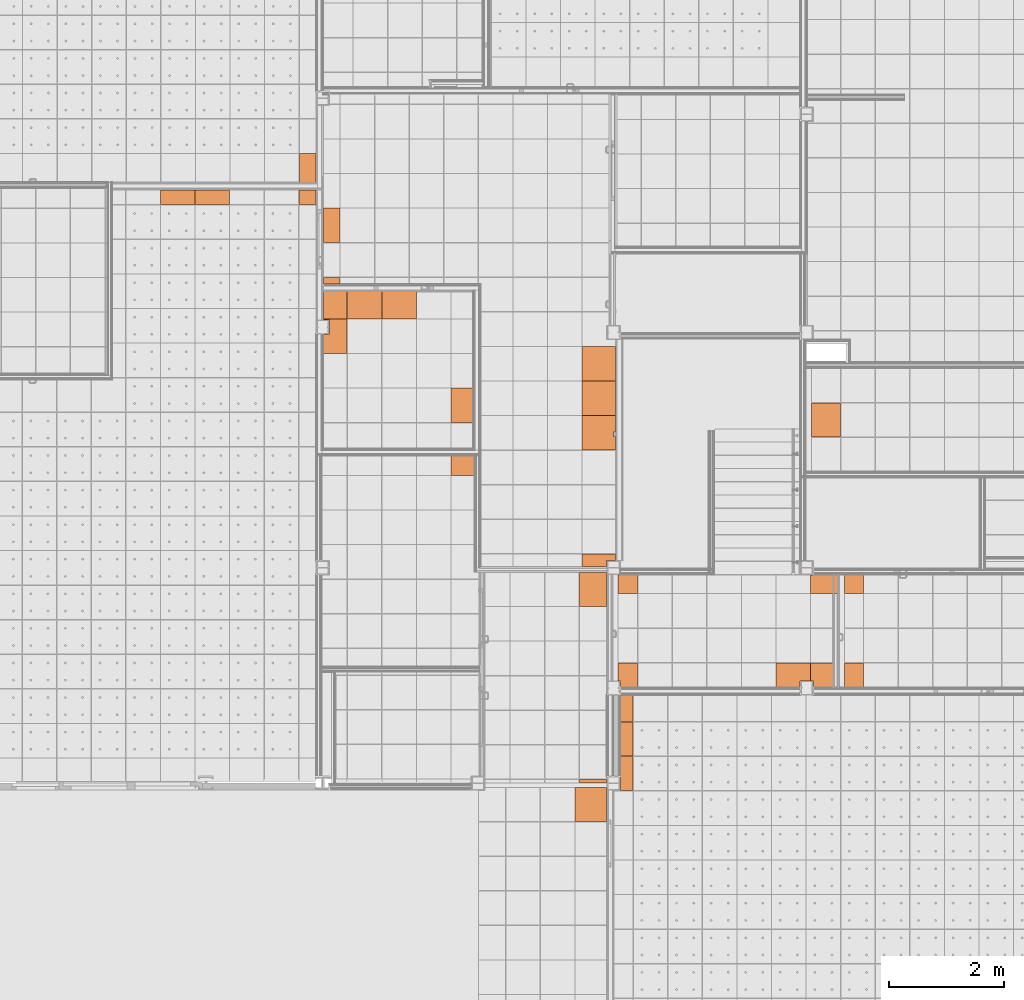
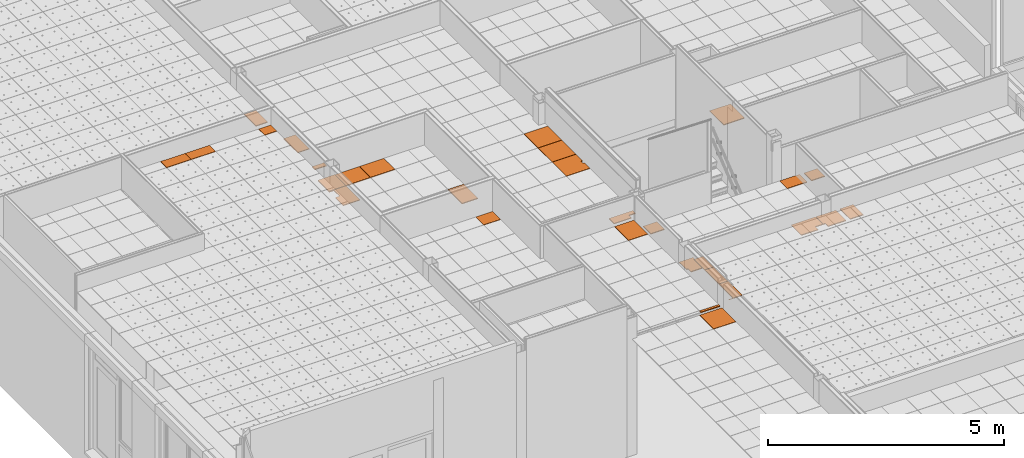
# One storey, part 333 of 338: 30 proxies, 11 elements without a shape of their own.
"""IFC2X3 building model written with IfcOpenShell, lengths in millimetres."""

import ifcopenshell
import ifcopenshell.guid

model = None  # the IFC model being written
_history = None  # IfcOwnerHistory: only IFC2X3 demands one
_inside = {}  # id of a spatial element -> (the spatial element, [elements in it])
_under = {}  # id of a project, library or spatial element -> (it, [spatial elements below it])
_declared = {}  # id of a project -> (the project, [libraries it declares])
_typed = {}  # id of a type object -> (the type object, [elements of that type])
_made_of = {}  # id of a material, layer set ... -> (it, [elements and type objects made of it])


def new_model(schema):
    """Start an empty IFC model of exactly this schema.

    Asked for "IFC4X3", IfcOpenShell would pick the latest addendum, in which some entities
    have other attributes; the version numbers below select the first issue.
    IFC2X3 requires an IfcOwnerHistory on every rooted entity: one is made here for all.
    """
    global model, _history
    if schema == "IFC4X3":
        model = ifcopenshell.file(schema_version=(4, 3, 0, 0))
    else:
        model = ifcopenshell.file(schema=schema)
    _inside.clear()
    _under.clear()
    _declared.clear()
    _typed.clear()
    _made_of.clear()
    _history = None
    if model.schema == "IFC2X3":
        org = make("IfcOrganization", Name="unknown")
        user = make(
            "IfcPersonAndOrganization",
            ThePerson=make("IfcPerson", FamilyName="unknown"),
            TheOrganization=org,
        )
        app = make(
            "IfcApplication",
            ApplicationDeveloper=org,
            Version="unknown",
            ApplicationFullName="unknown",
            ApplicationIdentifier="unknown",
        )
        _history = make(
            "IfcOwnerHistory",
            OwningUser=user,
            OwningApplication=app,
            ChangeAction="ADDED",
            CreationDate=0,
        )
    return model


def make(cls, **values):
    """One entity of the class cls with the attributes given. An attribute that is None is left unset."""
    return model.create_entity(
        cls, **{name: value for name, value in values.items() if value is not None}
    )


def entity(cls, *values):
    """Any entity or typed value of the class cls, its attributes in the order of the schema. None: left unset."""
    e = model.create_entity(cls)
    for i, value in enumerate(values):
        if value is not None:
            e[i] = value
    return e


def rooted(cls, **values):
    """An entity with a GlobalId (a new one), such as an element, a storey or a relation."""
    return make(cls, GlobalId=ifcopenshell.guid.new(), OwnerHistory=_history, **values)


def si_unit(unit_type, name, prefix=None):
    """IfcSIUnit, for example si_unit("LENGTHUNIT", "METRE", prefix="MILLI")."""
    return make("IfcSIUnit", UnitType=unit_type, Prefix=prefix, Name=name)


def converted_unit(unit_type, name, factor, base, dimensions=None, offset=None):
    """IfcConversionBasedUnit, such as the inch: factor (a typed value) times the base unit."""
    return make(
        "IfcConversionBasedUnit"
        if offset is None
        else "IfcConversionBasedUnitWithOffset",
        ConversionOffset=offset,
        Dimensions=None
        if dimensions is None
        else entity("IfcDimensionalExponents", *dimensions),
        UnitType=unit_type,
        Name=name,
        ConversionFactor=make(
            "IfcMeasureWithUnit", ValueComponent=factor, UnitComponent=base
        ),
    )


def derived_unit(unit_type, elements):
    """IfcDerivedUnit: a product of units, each with its exponent."""
    return make(
        "IfcDerivedUnit",
        Elements=[
            make("IfcDerivedUnitElement", Unit=unit, Exponent=power)
            for unit, power in elements
        ],
        UnitType=unit_type,
    )


def money_unit(currency):
    """IfcMonetaryUnit."""
    return make("IfcMonetaryUnit", Currency=currency)


def assignment(units):
    """IfcUnitAssignment: the units of a project."""
    return None if units is None else make("IfcUnitAssignment", Units=units)


def point(xyz):
    """IfcCartesianPoint."""
    return None if xyz is None else make("IfcCartesianPoint", Coordinates=xyz)


def direction(xyz):
    """IfcDirection."""
    return None if xyz is None else make("IfcDirection", DirectionRatios=xyz)


def frame(location, z_axis=None, x_axis=None):
    """IfcAxis2Placement3D, a coordinate frame: its origin and axes. An axis left out is left unset."""
    return make(
        "IfcAxis2Placement3D",
        Location=point(location),
        Axis=direction(z_axis),
        RefDirection=direction(x_axis),
    )


def origin_with_axes():
    """The frame at (0, 0, 0) with the z axis (0, 0, 1) and the x axis (1, 0, 0) written out."""
    return frame((0.0, 0.0, 0.0), z_axis=(0.0, 0.0, 1.0), x_axis=(1.0, 0.0, 0.0))


def place(relative_to, where):
    """IfcLocalPlacement: puts the frame where relative to a parent placement (None: the world)."""
    return make(
        "IfcLocalPlacement", PlacementRelTo=relative_to, RelativePlacement=where
    )


def context(
    kind, dimensions, precision=None, world=None, true_north=None, identifier=None
):
    """IfcGeometricRepresentationContext, for example the 3D "Model" context."""
    return make(
        "IfcGeometricRepresentationContext",
        ContextIdentifier=identifier,
        ContextType=kind,
        CoordinateSpaceDimension=dimensions,
        Precision=precision,
        WorldCoordinateSystem=world,
        TrueNorth=true_north,
    )


def subcontext(parent, identifier, kind, view, scale=None):
    """IfcGeometricRepresentationSubContext, for example "Body" below "Model"."""
    return make(
        "IfcGeometricRepresentationSubContext",
        ContextIdentifier=identifier,
        ContextType=kind,
        ParentContext=parent,
        TargetScale=scale,
        TargetView=view,
    )


def project(units=None, contexts=None):
    """IfcProject with its units and contexts."""
    return rooted(
        "IfcProject",
        Name="project",
        RepresentationContexts=contexts,
        UnitsInContext=assignment(units),
    )


def spatial(cls, under=None, at=None, **own):
    """A site, building, storey or space (cls), placed at a placement, below another one or the project."""
    s = rooted(cls, ObjectPlacement=at, **own)
    if under is not None:
        _under.setdefault(under.id(), (under, []))[1].append(s)
    return s


def faces_of(points, faces, orient=None, outer=None):
    """IfcFace entities. A face is a list of loops; a loop is a list of indices into points, from 0.

    orient and outer hold one flag for each loop. By default every Orientation is true, the
    first loop of a face is its IfcFaceOuterBound and the others are IfcFaceBound.
    """
    made = []
    for i, loops in enumerate(faces):
        bounds = []
        for j, loop in enumerate(loops):
            is_outer = j == 0 if outer is None else outer[i][j]
            bounds.append(
                make(
                    "IfcFaceOuterBound" if is_outer else "IfcFaceBound",
                    Bound=make("IfcPolyLoop", Polygon=[points[k] for k in loop]),
                    Orientation=True if orient is None else orient[i][j],
                )
            )
        made.append(make("IfcFace", Bounds=bounds))
    return made


def faceted_brep(points, faces, orient=None, outer=None, voids=None):
    """IfcFacetedBrep: a solid bounded by flat faces; with voids (closed shells), ...WithVoids."""
    shared = [point(p) for p in points]
    hull = make("IfcClosedShell", CfsFaces=faces_of(shared, faces, orient, outer))
    if voids is None:
        return make("IfcFacetedBrep", Outer=hull)
    return make(
        "IfcFacetedBrepWithVoids",
        Outer=hull,
        Voids=[
            make(cls, CfsFaces=faces_of(shared, fs, o, b)) for cls, fs, o, b in voids
        ],
    )


def shape(context_of_items, identifier, shape_type, items):
    """IfcShapeRepresentation: the items that make up one representation, for example the "Body"."""
    return make(
        "IfcShapeRepresentation",
        ContextOfItems=context_of_items,
        RepresentationIdentifier=identifier,
        RepresentationType=shape_type,
        Items=items,
    )


def material(Name=None, Category=None):
    """IfcMaterial."""
    return make("IfcMaterial", Name=Name, Category=Category)


def made_of(thing, what):
    """Note that an element or type object is made of a material, layer set ...; save() writes the relation."""
    if what is not None:
        _made_of.setdefault(what.id(), (what, []))[1].append(thing)
    return thing


def type_object(cls, material=None, **own):
    """A type object (cls), such as IfcWallType, which elements share."""
    return made_of(rooted(cls, **own), material)


def element(
    cls,
    number,
    at=None,
    inside=None,
    cuts=None,
    type_object=None,
    material=None,
    context=None,
    identifier="Body",
    shape_type=None,
    held_by="IfcProductDefinitionShape",
    body=None,
    shapes=None,
    **own,
):
    """One element of the class cls, such as IfcWall. Its Tag is "e" and its number.

    at: its placement. inside: the storey or other place that contains it. cuts: it is an
    opening in that element (IfcRelVoidsElement). A single representation is given by context,
    identifier, shape_type and body (its items); several are given by shapes. held_by: the class
    of the entity that holds the representations. save() writes the other relations.
    """
    e = rooted(cls, Tag="e%d" % number, ObjectPlacement=at, **own)
    if body is not None:
        shapes = [shape(context, identifier, shape_type, body)]
    if shapes is not None:
        e.Representation = make(held_by, Representations=shapes)
    if inside is not None:
        _inside.setdefault(inside.id(), (inside, []))[1].append(e)
    if cuts is not None:
        rooted(
            "IfcRelVoidsElement", RelatingBuildingElement=cuts, RelatedOpeningElement=e
        )
    if type_object is not None:
        _typed.setdefault(type_object.id(), (type_object, []))[1].append(e)
    return made_of(e, material)


def aggregate(whole, parts):
    """IfcRelAggregates: a whole, such as a stair, and the parts it consists of."""
    return rooted("IfcRelAggregates", RelatingObject=whole, RelatedObjects=parts)


def save(model, path):
    """Write the relations noted so far, then the file.

    IfcRelAggregates (storeys below a building ...), IfcRelContainedInSpatialStructure (elements
    in a storey), IfcRelDefinesByType, IfcRelAssociatesMaterial and IfcRelDeclares: one each for
    every whole, place, type object, material and project.
    """
    for whole, parts in _under.values():
        aggregate(whole, parts)
    for where, things in _inside.values():
        rooted(
            "IfcRelContainedInSpatialStructure",
            RelatedElements=things,
            RelatingStructure=where,
        )
    for kind, things in _typed.values():
        rooted("IfcRelDefinesByType", RelatedObjects=things, RelatingType=kind)
    for what, things in _made_of.values():
        rooted("IfcRelAssociatesMaterial", RelatedObjects=things, RelatingMaterial=what)
    for by, libraries in _declared.values():
        rooted("IfcRelDeclares", RelatingContext=by, RelatedDefinitions=libraries)
    model.write(path)


model = new_model("IFC2X3")

# Units and contexts
model_context = context("Model", 3, precision=0.01, world=origin_with_axes(), true_north=direction((0.0, 1.0)))
plan_context = context("Plan", 3, precision=0.01, world=origin_with_axes(), true_north=direction((0.0, 1.0)))
body_context = subcontext(model_context, "Body", "Model", "MODEL_VIEW")
ifc_project = project(units=[si_unit("LENGTHUNIT", "METRE", prefix="MILLI"), si_unit("AREAUNIT", "SQUARE_METRE"), si_unit("VOLUMEUNIT", "CUBIC_METRE"), converted_unit("PLANEANGLEUNIT", "DEGREE", entity("IfcPlaneAngleMeasure", 0.0174532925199), si_unit("PLANEANGLEUNIT", "RADIAN"), dimensions=[0, 0, 0, 0, 0, 0, 0]), money_unit("EUR"), converted_unit("TIMEUNIT", "Year", entity("IfcTimeMeasure", 31556926.0), si_unit("TIMEUNIT", "SECOND"), dimensions=[0, 0, 1, 0, 0, 0, 0]), si_unit("MASSUNIT", "GRAM", prefix="KILO"), si_unit("THERMODYNAMICTEMPERATUREUNIT", "DEGREE_CELSIUS"), si_unit("LUMINOUSINTENSITYUNIT", "LUMEN"), si_unit("ENERGYUNIT", "JOULE", prefix="MEGA"), derived_unit("THERMALCONDUCTANCEUNIT", [(si_unit("POWERUNIT", "WATT"), 1), (si_unit("LENGTHUNIT", "METRE"), -1), (si_unit("THERMODYNAMICTEMPERATUREUNIT", "KELVIN"), -1)]), derived_unit("SPECIFICHEATCAPACITYUNIT", [(si_unit("ENERGYUNIT", "JOULE"), 1), (si_unit("MASSUNIT", "GRAM", prefix="KILO"), -1), (si_unit("THERMODYNAMICTEMPERATUREUNIT", "KELVIN"), -1)]), derived_unit("MASSDENSITYUNIT", [(si_unit("MASSUNIT", "GRAM", prefix="KILO"), 1), (si_unit("VOLUMEUNIT", "CUBIC_METRE"), -1)])], contexts=[model_context, plan_context])

# Site, building, storey
site_placement = place(None, origin_with_axes())
site = spatial("IfcSite", under=ifc_project, at=site_placement, Name="Fortuinstraat Woensdrecht", CompositionType="ELEMENT")
building_placement = place(site_placement, origin_with_axes())
building = spatial("IfcBuilding", under=site, at=building_placement, Name="IKC Fortuna", CompositionType="ELEMENT")
storey_placement = place(building_placement, origin_with_axes())
storey = spatial("IfcBuildingStorey", under=building, at=storey_placement, Name="00 begane grond", CompositionType="ELEMENT", Elevation=0.0)

# Covering, proxy
covering_type = type_object("IfcCoveringType", Name="Curtain Wall Type", PredefinedType="CEILING")
covering_1_placement = place(storey_placement, frame((15059.4416165, 34009.703821, 3210.0), z_axis=(0.0, 0.0, 1.0), x_axis=(1.0, 0.0, 0.0)))
covering_1 = element("IfcCovering", 1, at=covering_1_placement, inside=storey, type_object=covering_type, Name="45_Plafondafwerking_P01", PredefinedType="CEILING")
ifc_material = material(Name="Gipsplaat")
building_element_proxy_type_1 = type_object("IfcBuildingElementProxyType", Name="Main Panel 292 x 503 x 20", PredefinedType="NOTDEFINED")
proxy_1_placement = place(covering_1_placement, frame((5246.24671468, -7151.29641444, 0.0), z_axis=(0.0, 0.0, 1.0), x_axis=(1.0, 0.0, 0.0)))
proxy_1 = element("IfcBuildingElementProxy", 2, at=proxy_1_placement, type_object=building_element_proxy_type_1, material=ifc_material, Name="__Panel-D", context=body_context, shape_type="Brep", body=[
    faceted_brep([(143.746691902, 248.796414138, -10.0), (-143.746714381, 248.796414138, -10.0), (-143.746714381, 248.796414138, 9.99999999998), (143.746691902, 248.796414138, 9.99999999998), (143.746736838, -248.796414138, -10.0), (-143.746714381, -248.796414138, -10.0), (-143.746714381, -248.796414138, 9.99999999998), (143.746736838, -248.796414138, 9.99999999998)], [[[0, 1, 2, 3]], [[0, 4, 5, 1]], [[1, 5, 6, 2]], [[3, 2, 6, 7]], [[4, 0, 3, 7]], [[5, 4, 7, 6]]]),
])
aggregate(covering_1, [proxy_1])

# Covering, proxies
covering_2_placement = place(storey_placement, frame((21169.4446171, 27661.0834994, 3010.0), z_axis=(0.0, 0.0, 1.0), x_axis=(1.0, 0.0, 0.0)))
covering_2 = element("IfcCovering", 3, at=covering_2_placement, inside=storey, type_object=covering_type, Name="45_Plafondafwerking_P04", PredefinedType="CEILING")
building_element_proxy_type_2 = type_object("IfcBuildingElementProxyType", Name="Distinct Panel 583 x 600 x 20", PredefinedType="NOTDEFINED")
proxy_2_placement = place(covering_2_placement, frame((4191.74518974, -4200.0, 1.55431223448e-10), z_axis=(0.0, 0.0, 1.0), x_axis=(1.0, 0.0, 0.0)))
proxy_2 = element("IfcBuildingElementProxy", 4, at=proxy_2_placement, type_object=building_element_proxy_type_2, material=ifc_material, Name="__Panel-D", context=body_context, shape_type="Brep", body=[
    faceted_brep([(-289.245190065, 297.5, -10.0), (-289.245190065, 297.5, 9.99999999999), (289.245189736, 297.5, 9.99999999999), (289.245189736, 297.5, -10.0), (-289.245190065, -297.5, -10.0), (-289.245190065, -297.5, 9.99999999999), (289.245189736, -297.5, 9.99999999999), (289.245189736, -297.5, -10.0)], [[[0, 1, 2, 3]], [[4, 5, 1, 0]], [[1, 5, 6, 2]], [[3, 2, 6, 7]], [[0, 3, 7, 4]], [[7, 6, 5, 4]]]),
])
proxy_3_placement = place(covering_2_placement, frame((4191.74518974, -4800.0, 1.55875312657e-10), z_axis=(0.0, 0.0, 1.0), x_axis=(1.0, 0.0, 0.0)))
proxy_3 = element("IfcBuildingElementProxy", 5, at=proxy_3_placement, type_object=building_element_proxy_type_2, material=ifc_material, Name="__Panel-D", context=body_context, shape_type="Brep", body=[
    faceted_brep([(-289.245190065, 297.5, -10.0), (-289.245190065, 297.5, 9.99999999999), (289.245189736, 297.5, 9.99999999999), (289.245189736, 297.5, -10.0), (-289.245190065, -297.5, -10.0), (-289.245190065, -297.5, 9.99999999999), (289.245189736, -297.5, 9.99999999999), (289.245189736, -297.5, -10.0)], [[[0, 1, 2, 3]], [[4, 5, 1, 0]], [[1, 5, 6, 2]], [[3, 2, 6, 7]], [[0, 3, 7, 4]], [[7, 6, 5, 4]]]),
])
building_element_proxy_type_3 = type_object("IfcBuildingElementProxyType", Name="Distinct Panel 293 x 600 x 20", PredefinedType="NOTDEFINED")
proxy_4_placement = place(covering_2_placement, frame((-446.254815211, -1800.0, 0.0), z_axis=(0.0, 0.0, 1.0), x_axis=(1.0, 0.0, 0.0)))
proxy_4 = element("IfcBuildingElementProxy", 6, at=proxy_4_placement, type_object=building_element_proxy_type_3, material=ifc_material, Name="__Panel-D", context=body_context, shape_type="Brep", body=[
    faceted_brep([(-143.754813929, 297.5, -10.0), (-143.754813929, 297.5, 9.99999999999), (143.754815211, 297.5, 9.99999999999), (143.754815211, 297.5, -10.0), (-143.754813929, -297.5, -10.0), (-143.754813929, -297.5, 9.99999999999), (143.754815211, -297.5, 9.99999999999), (143.754815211, -297.5, -10.0)], [[[0, 1, 2, 3]], [[4, 5, 1, 0]], [[1, 5, 6, 2]], [[3, 2, 6, 7]], [[0, 3, 7, 4]], [[7, 6, 5, 4]]]),
])
building_element_proxy_type_4 = type_object("IfcBuildingElementProxyType", Name="Distinct Panel 293 x 123 x 20", PredefinedType="NOTDEFINED")
proxy_5_placement = place(covering_2_placement, frame((-446.254815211, -2761.44615711, 0.0), z_axis=(0.0, 0.0, 1.0), x_axis=(1.0, 0.0, 0.0)))
proxy_5 = element("IfcBuildingElementProxy", 7, at=proxy_5_placement, type_object=building_element_proxy_type_4, material=ifc_material, Name="__Panel-D", context=body_context, shape_type="Brep", body=[
    faceted_brep([(-143.75481348, 58.9461553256, -10.0), (-143.75481348, 58.9461553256, 9.99999999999), (143.75481348, 58.9461553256, 9.99999999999), (143.75481348, 58.9461553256, -10.0), (-143.75481348, -58.9461644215, -10.0), (-143.75481348, -58.9461644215, 9.99999999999), (143.75481348, -58.9461469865, 9.99999999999), (143.75481348, -58.9461469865, -10.0)], [[[0, 1, 2, 3]], [[4, 5, 1, 0]], [[1, 5, 6, 2]], [[3, 2, 6, 7]], [[0, 3, 7, 4]], [[7, 6, 5, 4]]]),
])
building_element_proxy_type_5 = type_object("IfcBuildingElementProxyType", Name="Distinct Panel 583 x 116 x 20", PredefinedType="NOTDEFINED")
proxy_6_placement = place(covering_2_placement, frame((4237.32691304, -7612.5353055, 1.57207580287e-10), z_axis=(0.0, 0.0, 1.0), x_axis=(1.0, 0.0, 0.0)))
proxy_6 = element("IfcBuildingElementProxy", 8, at=proxy_6_placement, type_object=building_element_proxy_type_5, material=ifc_material, Name="__Panel-D", context=body_context, shape_type="Brep", body=[
    faceted_brep([(-334.826910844, 110.035307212, -10.0), (-334.826910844, 110.035307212, 9.99999999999), (243.663434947, 110.035307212, 9.99999999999), (243.663434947, 110.035307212, -10.0), (-334.826910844, -106.283788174, -10.0), (-334.826910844, -106.283788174, 9.99999999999), (88.6634726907, -106.283788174, 9.99999999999), (88.6634726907, -1.25151688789, 9.99999999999), (243.663434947, -1.25151688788, 9.99999999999), (243.663434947, -1.25151688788, -10.0), (88.6634726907, -1.25151688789, -10.0), (88.6634726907, -106.283788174, -10.0)], [[[0, 1, 2, 3]], [[4, 5, 1, 0]], [[1, 5, 6, 7, 8, 2]], [[3, 2, 8, 9]], [[0, 3, 9, 10, 11, 4]], [[11, 6, 5, 4]], [[10, 7, 6, 11]], [[9, 8, 7, 10]]]),
])
building_element_proxy_type_6 = type_object("IfcBuildingElementProxyType", Name="Distinct Panel 583 x 284 x 20", PredefinedType="NOTDEFINED")
proxy_7_placement = place(covering_2_placement, frame((4327.99278507, -5411.89342301, 1.60316204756e-10), z_axis=(0.0, 0.0, 1.0), x_axis=(1.0, 0.0, 0.0)))
proxy_7 = element("IfcBuildingElementProxy", 9, at=proxy_7_placement, type_object=building_element_proxy_type_6, material=ifc_material, Name="__Panel-D", context=body_context, shape_type="Brep", body=[
    faceted_brep([(-425.492785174, 309.393423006, -10.0), (-425.492785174, 309.393423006, 9.99999999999), (152.997594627, 309.393423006, 9.99999999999), (152.997594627, 309.393423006, -10.0), (-425.492785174, -285.606576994, -10.0), (-425.492785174, -285.606576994, 9.99999999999), (152.997594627, -285.606576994, 9.99999999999), (152.997648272, -54.3934037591, 9.99999999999), (114.497540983, -54.3934037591, 9.99999999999), (114.497540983, 30.6065604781, 9.99999999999), (152.997648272, 30.6065604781, 9.99999999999), (152.997648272, 30.6065604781, -10.0), (114.497540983, 30.6065604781, -10.0), (114.497540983, -54.3934037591, -10.0), (152.997648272, -54.3934037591, -10.0), (152.997594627, -285.606576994, -10.0)], [[[0, 1, 2, 3]], [[4, 5, 1, 0]], [[1, 5, 6, 7, 8, 9, 10, 2]], [[3, 2, 10, 11]], [[0, 3, 11, 12, 13, 14, 15, 4]], [[15, 6, 5, 4]], [[14, 7, 6, 15]], [[13, 8, 7, 14]], [[12, 9, 8, 13]], [[11, 10, 9, 12]]]),
])
aggregate(covering_2, [proxy_2, proxy_5, proxy_4, proxy_6, proxy_7, proxy_3])

covering_3_placement = place(storey_placement, frame((20708.834778, 24017.7308613, 2810.0), z_axis=(0.0, 0.0, 1.0), x_axis=(1.0, 0.0, 0.0)))
covering_3 = element("IfcCovering", 10, at=covering_3_placement, inside=storey, type_object=covering_type, Name="45_Plafondafwerking_P02", PredefinedType="CEILING")
building_element_proxy_type_7 = type_object("IfcBuildingElementProxyType", Name="Distinct Panel 600 x 475 x 20", PredefinedType="NOTDEFINED")
proxy_8_placement = place(covering_3_placement, frame((1185.69944934, 457.947261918, 0.0), z_axis=(0.0, 0.0, 1.0), x_axis=(1.0, 0.0, 0.0)))
proxy_8 = element("IfcBuildingElementProxy", 11, at=proxy_8_placement, type_object=building_element_proxy_type_7, material=ifc_material, Name="__Panel-D", context=body_context, shape_type="Brep", body=[
    faceted_brep([(297.5, 235.013031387, -10.0), (-297.5, 235.013031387, -10.0), (-297.5, 235.013031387, 9.99999999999), (297.5, 235.013031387, 9.99999999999), (297.5, -235.013030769, -10.0), (-297.5, -235.013030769, -10.0), (-297.5, -235.013030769, 9.99999999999), (297.5, -235.013030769, 9.99999999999)], [[[0, 1, 2, 3]], [[0, 4, 5, 1]], [[1, 5, 6, 2]], [[3, 2, 6, 7]], [[4, 0, 3, 7]], [[5, 4, 7, 6]]]),
])
proxy_9_placement = place(covering_3_placement, frame((585.699449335, 457.947257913, 0.0), z_axis=(0.0, 0.0, 1.0), x_axis=(1.0, 0.0, 0.0)))
proxy_9 = element("IfcBuildingElementProxy", 12, at=proxy_9_placement, type_object=building_element_proxy_type_7, material=ifc_material, Name="__Panel-D", context=body_context, shape_type="Brep", body=[
    faceted_brep([(297.5, 235.013035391, -10.0), (-297.5, 235.01301751, -10.0), (-297.5, 235.01301751, 9.99999999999), (297.5, 235.013035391, 9.99999999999), (297.5, -235.013026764, -10.0), (-297.5, -235.013026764, -10.0), (-297.5, -235.013026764, 9.99999999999), (297.5, -235.013026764, 9.99999999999)], [[[0, 1, 2, 3]], [[0, 4, 5, 1]], [[1, 5, 6, 2]], [[3, 2, 6, 7]], [[4, 0, 3, 7]], [[5, 4, 7, 6]]]),
])
building_element_proxy_type_8 = type_object("IfcBuildingElementProxyType", Name="Distinct Panel 418 x 18 x 20", PredefinedType="NOTDEFINED")
proxy_10_placement = place(covering_3_placement, origin_with_axes())
proxy_10 = element("IfcBuildingElementProxy", 13, at=proxy_10_placement, type_object=building_element_proxy_type_8, material=ifc_material, Name="__Panel-D", context=body_context, shape_type="Brep", body=[
    faceted_brep([(283.199446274, 217.934231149, -10.0), (-129.399813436, 217.934231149, -10.0), (-129.399813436, 217.934231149, 9.99999999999), (283.199446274, 217.934231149, 9.99999999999), (283.199446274, -377.065768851, -10.0), (-129.399813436, -377.065768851, -10.0), (-129.399813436, -45.4342510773, -10.0), (-19.3998223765, -45.4342510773, -10.0), (-19.3998223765, 204.565784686, -10.0), (-129.399813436, 204.565784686, -10.0), (-129.399813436, 204.565784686, 9.99999999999), (-19.3998223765, 204.565784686, 9.99999999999), (-19.3998223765, -45.4342510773, 9.99999999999), (-129.399813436, -45.4342510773, 9.99999999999), (-129.399813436, -377.065768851, 9.99999999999), (283.199446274, -377.065768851, 9.99999999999)], [[[0, 1, 2, 3]], [[0, 4, 5, 6, 7, 8, 9, 1]], [[1, 9, 10, 2]], [[3, 2, 10, 11, 12, 13, 14, 15]], [[4, 0, 3, 15]], [[5, 4, 15, 14]], [[6, 5, 14, 13]], [[7, 6, 13, 12]], [[8, 7, 12, 11]], [[9, 8, 11, 10]]]),
])
building_element_proxy_type_9 = type_object("IfcBuildingElementProxyType", Name="Distinct Panel 388 x 600 x 20", PredefinedType="NOTDEFINED")
proxy_11_placement = place(covering_3_placement, frame((2279.89983352, -1279.56576885, 0.0), z_axis=(0.0, 0.0, 1.0), x_axis=(1.0, 0.0, 0.0)))
proxy_11 = element("IfcBuildingElementProxy", 14, at=proxy_11_placement, type_object=building_element_proxy_type_9, material=ifc_material, Name="__Panel-D", context=body_context, shape_type="Brep", body=[
    faceted_brep([(191.700382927, 297.5, -10.0), (-191.700384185, 297.5, -10.0), (-191.700384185, 297.5, 9.99999999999), (191.700382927, 297.5, 9.99999999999), (191.700382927, -297.5, -10.0), (-191.700384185, -297.5, -10.0), (-191.700384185, -297.5, 9.99999999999), (191.700382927, -297.5, 9.99999999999)], [[[0, 1, 2, 3]], [[0, 4, 5, 1]], [[1, 5, 6, 2]], [[3, 2, 6, 7]], [[4, 0, 3, 7]], [[5, 4, 7, 6]]]),
])
building_element_proxy_type_10 = type_object("IfcBuildingElementProxyType", Name="Distinct Panel 418 x 475 x 20", PredefinedType="NOTDEFINED")
proxy_12_placement = place(covering_3_placement, frame((76.8998179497, 457.947253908, 0.0), z_axis=(0.0, 0.0, 1.0), x_axis=(1.0, 0.0, 0.0)))
proxy_12 = element("IfcBuildingElementProxy", 15, at=proxy_12_placement, type_object=building_element_proxy_type_10, material=ifc_material, Name="__Panel-D", context=body_context, shape_type="Brep", body=[
    faceted_brep([(206.299628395, 235.013021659, -10.0), (-206.299630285, 235.013021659, -10.0), (-206.299630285, 235.013021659, 9.99999999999), (206.299628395, 235.013021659, 9.99999999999), (206.299628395, -235.013021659, -10.0), (-206.299630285, -235.013021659, -10.0), (-206.299630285, -235.013021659, 9.99999999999), (206.299628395, -235.013021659, 9.99999999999)], [[[0, 1, 2, 3]], [[0, 4, 5, 1]], [[1, 5, 6, 2]], [[3, 2, 6, 7]], [[4, 0, 3, 7]], [[5, 4, 7, 6]]]),
])
aggregate(covering_3, [proxy_10, proxy_12, proxy_8, proxy_9, proxy_11])

# Covering, proxy
covering_4_placement = place(storey_placement, frame((21294.5342274, 19421.5253195, 2810.0), z_axis=(0.0, 0.0, 1.0), x_axis=(1.0, 0.0, 0.0)))
covering_4 = element("IfcCovering", 16, at=covering_4_placement, inside=storey, type_object=covering_type, Name="45_Plafondafwerking_P02", PredefinedType="CEILING")
building_element_proxy_type_11 = type_object("IfcBuildingElementProxyType", Name="Distinct Panel 413 x 342 x 20", PredefinedType="NOTDEFINED")
proxy_13_placement = place(covering_4_placement, frame((1706.70037291, 2270.80692216, 0.0), z_axis=(0.0, 0.0, 1.0), x_axis=(1.0, 0.0, 0.0)))
proxy_13 = element("IfcBuildingElementProxy", 17, at=proxy_13_placement, type_object=building_element_proxy_type_11, material=ifc_material, Name="__Panel-D", context=body_context, shape_type="Brep", body=[
    faceted_brep([(204.200371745, 168.306919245, -10.0), (-204.200371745, 168.306919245, -10.0), (-204.200371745, 168.306919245, 9.99999999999), (204.200371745, 168.306919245, 9.99999999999), (204.200371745, -168.306920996, -10.0), (-204.200371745, -168.306920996, -10.0), (-204.200371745, -168.306920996, 9.99999999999), (204.200371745, -168.306920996, 9.99999999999)], [[[0, 1, 2, 3]], [[0, 4, 5, 1]], [[1, 5, 6, 2]], [[3, 2, 6, 7]], [[4, 0, 3, 7]], [[5, 4, 7, 6]]]),
])
aggregate(covering_4, [proxy_13])

covering_5_placement = place(storey_placement, frame((28134.6600538, 19636.0305189, 2810.0), z_axis=(0.0, 0.0, 1.0), x_axis=(1.0, 0.0, 0.0)))
covering_5 = element("IfcCovering", 18, at=covering_5_placement, inside=storey, type_object=covering_type, Name="45_Plafondafwerking_P02", PredefinedType="CEILING")
building_element_proxy_type_12 = type_object("IfcBuildingElementProxyType", Name="Distinct Panel 600 x 317 x 20", PredefinedType="NOTDEFINED")
proxy_14_placement = place(covering_5_placement, frame((639.091646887, -1615.41128106, 1.01252339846e-10), z_axis=(0.0, 0.0, 1.0), x_axis=(1.0, 0.0, 0.0)))
proxy_14 = element("IfcBuildingElementProxy", 19, at=proxy_14_placement, type_object=building_element_proxy_type_12, material=ifc_material, Name="__Panel-D", context=body_context, shape_type="Brep", body=[
    faceted_brep([(-336.591646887, 249.145193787, -10.0), (-336.591646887, 249.145193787, 9.99999999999), (258.408353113, 249.145193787, 9.99999999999), (258.408353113, 249.145193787, -10.0), (-336.591646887, -183.322601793, -10.0), (-336.591646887, -183.322601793, 9.99999999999), (75.6832976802, -183.322592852, 9.99999999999), (75.6832976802, -63.3226017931, 9.99999999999), (258.408353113, -63.3226017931, 9.99999999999), (258.408353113, -63.3226017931, -10.0), (75.6832976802, -63.3226017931, -10.0), (75.6832976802, -183.322592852, -10.0)], [[[0, 1, 2, 3]], [[4, 5, 1, 0]], [[1, 5, 6, 7, 8, 2]], [[3, 2, 8, 9]], [[0, 3, 9, 10, 11, 4]], [[11, 6, 5, 4]], [[10, 7, 6, 11]], [[9, 8, 7, 10]]]),
])

# Covering, proxies
covering_6_placement = place(storey_placement, frame((17451.9845996, 24118.5314449, 3210.0), z_axis=(0.0, 0.0, 1.0), x_axis=(1.0, 0.0, 0.0)))
covering_6 = element("IfcCovering", 20, at=covering_6_placement, inside=storey, type_object=covering_type, Name="45_Plafondafwerking_P01", PredefinedType="CEILING")
building_element_proxy_type_13 = type_object("IfcBuildingElementProxyType", Name="600 x 264 x 20", PredefinedType="NOTDEFINED")
proxy_15_placement = place(covering_6_placement, frame((600.0, 2231.78982909, 0.0), z_axis=(0.0, 0.0, 1.0), x_axis=(1.0, 0.0, 0.0)))
proxy_15 = element("IfcBuildingElementProxy", 21, at=proxy_15_placement, type_object=building_element_proxy_type_13, material=ifc_material, Name="__600x622 Rockfon Krios", context=body_context, shape_type="Brep", body=[
    faceted_brep([(297.5, 129.289832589, -10.0), (-297.5, 129.289832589, -10.0), (-297.5, 129.289832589, 9.99999999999), (297.5, 129.289832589, 9.99999999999), (297.5, -129.289829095, -10.0), (-297.5, -129.289829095, -10.0), (-297.5, -129.289829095, 9.99999999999), (297.5, -129.289829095, 9.99999999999)], [[[0, 1, 2, 3]], [[0, 4, 5, 1]], [[1, 5, 6, 2]], [[3, 2, 6, 7]], [[4, 0, 3, 7]], [[5, 4, 7, 6]]]),
])
proxy_16_placement = place(covering_6_placement, frame((1200.0, 2231.78982909, 0.0), z_axis=(0.0, 0.0, 1.0), x_axis=(1.0, 0.0, 0.0)))
proxy_16 = element("IfcBuildingElementProxy", 22, at=proxy_16_placement, type_object=building_element_proxy_type_13, material=ifc_material, Name="__600x773 Rockfon Krios", context=body_context, shape_type="Brep", body=[
    faceted_brep([(297.5, 129.289832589, -10.0), (-297.5, 129.289832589, -10.0), (-297.5, 129.289832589, 9.99999999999), (297.5, 129.289832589, 9.99999999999), (297.5, -129.289829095, -10.0), (-297.5, -129.289829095, -10.0), (-297.5, -129.289829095, 9.99999999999), (297.5, -129.289829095, 9.99999999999)], [[[0, 1, 2, 3]], [[0, 4, 5, 1]], [[1, 5, 6, 2]], [[3, 2, 6, 7]], [[4, 0, 3, 7]], [[5, 4, 7, 6]]]),
])
building_element_proxy_type_14 = type_object("IfcBuildingElementProxyType", Name="300 x 264 x 20", PredefinedType="NOTDEFINED")
proxy_17_placement = place(covering_6_placement, frame((2849.97521385, 2231.78982909, 0.0), z_axis=(0.0, 0.0, 1.0), x_axis=(1.0, 0.0, 0.0)))
proxy_17 = element("IfcBuildingElementProxy", 23, at=proxy_17_placement, type_object=building_element_proxy_type_14, material=ifc_material, Name="__600x628 Rockfon Krios", context=body_context, shape_type="Brep", body=[
    faceted_brep([(147.475229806, 129.289831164, -10.0), (-147.475215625, 129.289831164, -10.0), (-147.475215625, 129.289831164, 9.99999999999), (147.475229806, 129.289831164, 9.99999999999), (147.475198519, -129.289830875, -10.0), (-147.475215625, -129.289830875, -10.0), (-147.475215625, -129.289830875, 9.99999999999), (147.475198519, -129.289830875, 9.99999999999)], [[[0, 1, 2, 3]], [[0, 4, 5, 1]], [[1, 5, 6, 2]], [[3, 2, 6, 7]], [[4, 0, 3, 7]], [[5, 4, 7, 6]]]),
])
aggregate(covering_6, [proxy_15, proxy_17, proxy_16])

# Proxy
building_element_proxy_type_15 = type_object("IfcBuildingElementProxyType", Name="Distinct Panel 490 x 437 x 20", PredefinedType="NOTDEFINED")
proxy_18_placement = place(covering_5_placement, frame((1080.83888884, -1615.41129067, 1.15463194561e-10), z_axis=(0.0, 0.0, 1.0), x_axis=(1.0, 0.0, 0.0)))
proxy_18 = element("IfcBuildingElementProxy", 24, at=proxy_18_placement, type_object=building_element_proxy_type_15, material=ifc_material, Name="__Panel-D", context=body_context, shape_type="Brep", body=[
    faceted_brep([(-178.338888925, 249.145208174, -10.0), (-178.338888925, 249.145208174, 9.99999999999), (306.902837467, 249.145208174, 9.99999999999), (306.902837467, 249.145208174, -10.0), (-178.338888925, -63.3225872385, -10.0), (-178.338888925, -63.3225872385, 9.99999999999), (-126.063948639, -63.3226164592, 9.99999999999), (-126.063948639, -183.322597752, 9.99999999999), (306.902837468, -183.322612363, 9.99999999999), (306.902837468, -183.322612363, -10.0), (-126.063948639, -183.322597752, -10.0), (-126.063948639, -63.3226164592, -10.0)], [[[0, 1, 2, 3]], [[4, 5, 1, 0]], [[1, 5, 6, 7, 8, 2]], [[3, 2, 8, 9]], [[0, 3, 9, 10, 11, 4]], [[11, 6, 5, 4]], [[10, 7, 6, 11]], [[9, 8, 7, 10]]]),
])

building_element_proxy_type_16 = type_object("IfcBuildingElementProxyType", Name="Distinct Panel 340 x 328 x 20", PredefinedType="NOTDEFINED")
proxy_19_placement = place(covering_5_placement, frame((-2270.12085273, 3.74705422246e-06, 0.0), z_axis=(0.0, 0.0, 1.0), x_axis=(1.0, 0.0, 0.0)))
proxy_19 = element("IfcBuildingElementProxy", 25, at=proxy_19_placement, type_object=building_element_proxy_type_16, material=ifc_material, Name="__Panel-D", context=body_context, shape_type="Brep", body=[
    faceted_brep([(-167.620850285, 161.266098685, -10.0), (-167.620850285, 161.266098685, 9.99999999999), (167.620850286, 161.266083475, 9.99999999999), (167.620850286, 161.266083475, -10.0), (-167.620850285, -161.266087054, -10.0), (-167.620850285, -161.266087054, 9.99999999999), (167.620850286, -161.266087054, 9.99999999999), (167.620850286, -161.266087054, -10.0)], [[[0, 1, 2, 3]], [[4, 5, 1, 0]], [[1, 5, 6, 2]], [[3, 2, 6, 7]], [[0, 3, 7, 4]], [[7, 6, 5, 4]]]),
])

building_element_proxy_type_17 = type_object("IfcBuildingElementProxyType", Name="Distinct Panel 340 x 437 x 20", PredefinedType="NOTDEFINED")
proxy_20_placement = place(covering_5_placement, frame((-2313.98892092, -1615.41129335, 0.0), z_axis=(0.0, 0.0, 1.0), x_axis=(1.0, 0.0, 0.0)))
proxy_20 = element("IfcBuildingElementProxy", 26, at=proxy_20_placement, type_object=building_element_proxy_type_17, material=ifc_material, Name="__Panel-D", context=body_context, shape_type="Brep", body=[
    faceted_brep([(-123.752787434, 249.14520804, -10.0), (-123.752787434, 249.14520804, 9.99999999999), (211.488921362, 249.14520804, 9.99999999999), (211.488921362, 249.14520804, -10.0), (-123.752800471, -63.3225984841, -10.0), (-123.752800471, -63.3225984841, 9.99999999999), (-85.2361244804, -63.3225984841, 9.99999999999), (-85.2361244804, -183.322609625, 9.99999999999), (211.488921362, -183.322609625, 9.99999999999), (211.488921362, -183.322609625, -10.0), (-85.2361244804, -183.322609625, -10.0), (-85.2361244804, -63.3225984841, -10.0)], [[[0, 1, 2, 3]], [[4, 5, 1, 0]], [[1, 5, 6, 7, 8, 2]], [[3, 2, 8, 9]], [[0, 3, 9, 10, 11, 4]], [[11, 6, 5, 4]], [[10, 7, 6, 11]], [[9, 8, 7, 10]]]),
])

building_element_proxy_type_18 = type_object("IfcBuildingElementProxyType", Name="Distinct Panel 490 x 328 x 20", PredefinedType="NOTDEFINED")
proxy_21_placement = place(covering_5_placement, frame((1145.12086311, 1.2945672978e-05, 1.172395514e-10), z_axis=(0.0, 0.0, 1.0), x_axis=(1.0, 0.0, 0.0)))
proxy_21 = element("IfcBuildingElementProxy", 27, at=proxy_21_placement, type_object=building_element_proxy_type_18, material=ifc_material, Name="__Panel-D", context=body_context, shape_type="Brep", body=[
    faceted_brep([(-242.620863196, 161.266098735, -10.0), (-242.620863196, 161.266098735, 9.99999999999), (242.620863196, 161.266098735, 9.99999999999), (242.620863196, 161.266098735, -10.0), (-242.620863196, -161.266098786, -10.0), (-242.620863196, -161.266098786, 9.99999999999), (242.620863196, -161.266098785, 9.99999999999), (242.620863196, -161.266098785, -10.0)], [[[0, 1, 2, 3]], [[4, 5, 1, 0]], [[1, 5, 6, 2]], [[3, 2, 6, 7]], [[0, 3, 7, 4]], [[7, 6, 5, 4]]]),
])

aggregate(covering_5, [proxy_18, proxy_19, proxy_20, proxy_21, proxy_14])

# Covering, proxies
covering_7_placement = place(storey_placement, frame((30854.3216019, 19636.030534, 2810.0), z_axis=(0.0, 0.0, 1.0), x_axis=(1.0, 0.0, 0.0)))
covering_7 = element("IfcCovering", 28, at=covering_7_placement, inside=storey, type_object=covering_type, Name="45_Plafondafwerking_P02 gec", PredefinedType="CEILING")
building_element_proxy_type_19 = type_object("IfcBuildingElementProxyType", Name="Distinct Panel 329 x 437 x 20", PredefinedType="NOTDEFINED")
proxy_22_placement = place(covering_7_placement, frame((-1064.70990772, -1582.50002131, 0.0), z_axis=(0.0, 0.0, 1.0), x_axis=(1.0, 0.0, 0.0)))
proxy_22 = element("IfcBuildingElementProxy", 29, at=proxy_22_placement, type_object=building_element_proxy_type_19, material=ifc_material, Name="__Panel-D", context=body_context, shape_type="Brep", body=[
    faceted_brep([(-162.20990609, 216.233920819, -10.0), (-162.20990609, 216.233920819, 9.99999999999), (162.209908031, 216.233920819, 9.99999999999), (162.209908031, 216.233920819, -10.0), (-162.20990609, -216.233920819, -10.0), (-162.20990609, -216.233920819, 9.99999999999), (162.209908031, -216.233920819, 9.99999999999), (162.209908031, -216.233920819, -10.0)], [[[0, 1, 2, 3]], [[4, 5, 1, 0]], [[1, 5, 6, 2]], [[3, 2, 6, 7]], [[0, 3, 7, 4]], [[7, 6, 5, 4]]]),
])
building_element_proxy_type_20 = type_object("IfcBuildingElementProxyType", Name="Distinct Panel 329 x 328 x 20", PredefinedType="NOTDEFINED")
proxy_23_placement = place(covering_7_placement, frame((-1064.70990772, -1.09439532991e-05, 0.0), z_axis=(0.0, 0.0, 1.0), x_axis=(1.0, 0.0, 0.0)))
proxy_23 = element("IfcBuildingElementProxy", 30, at=proxy_23_placement, type_object=building_element_proxy_type_20, material=ifc_material, Name="__Panel-D", context=body_context, shape_type="Brep", body=[
    faceted_brep([(-162.209909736, 161.26606578, -10.0), (-162.209909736, 161.26606578, 9.99999999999), (162.209909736, 161.266109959, 9.99999999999), (162.209909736, 161.266109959, -10.0), (-162.209909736, -161.266091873, -10.0), (-162.209909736, -161.266091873, 9.99999999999), (162.209909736, -161.266091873, 9.99999999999), (162.209909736, -161.266091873, -10.0)], [[[0, 1, 2, 3]], [[4, 5, 1, 0]], [[1, 5, 6, 2]], [[3, 2, 6, 7]], [[0, 3, 7, 4]], [[7, 6, 5, 4]]]),
])
aggregate(covering_7, [proxy_22, proxy_23])

# Covering, proxy
covering_8_placement = place(storey_placement, frame((29857.0095423, 23084.513552, 2810.0), z_axis=(0.0, 0.0, 1.0), x_axis=(1.0, 0.0, 0.0)))
covering_8 = element("IfcCovering", 31, at=covering_8_placement, inside=storey, type_object=covering_type, Name="45_Plafondafwerking_P02", PredefinedType="CEILING")
building_element_proxy_type_21 = type_object("IfcBuildingElementProxyType", Name="Distinct Panel 513 x 600 x 20", PredefinedType="NOTDEFINED")
proxy_24_placement = place(covering_8_placement, frame((-556.327252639, -600.000001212, 0.0), z_axis=(0.0, 0.0, 1.0), x_axis=(1.0, 0.0, 0.0)))
proxy_24 = element("IfcBuildingElementProxy", 32, at=proxy_24_placement, type_object=building_element_proxy_type_21, material=ifc_material, Name="__Panel-D", context=body_context, shape_type="Brep", body=[
    faceted_brep([(-253.827251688, 297.5, -10.0), (-253.827251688, 297.5, 9.99999999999), (253.827252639, 297.5, 9.99999999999), (253.827252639, 297.5, -10.0), (-253.827251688, -297.5, -10.0), (-253.827251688, -297.5, 9.99999999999), (253.827252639, -297.5, 9.99999999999), (253.827252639, -297.5, -10.0)], [[[0, 1, 2, 3]], [[4, 5, 1, 0]], [[1, 5, 6, 2]], [[3, 2, 6, 7]], [[0, 3, 7, 4]], [[7, 6, 5, 4]]]),
])
aggregate(covering_8, [proxy_24])

# Covering, proxies
covering_9_placement = place(storey_placement, frame((31656.9226967, 15748.5304598, 3210.0), z_axis=(0.0, 0.0, 1.0), x_axis=(1.0, 0.0, 0.0)))
covering_9 = element("IfcCovering", 33, at=covering_9_placement, inside=storey, type_object=covering_type, Name="45_Plafondafwerking_P01", PredefinedType="CEILING")
building_element_proxy_type_22 = type_object("IfcBuildingElementProxyType", Name="224 x 461 x 20", PredefinedType="NOTDEFINED")
proxy_25_placement = place(covering_9_placement, frame((-5811.99388546, 1730.6330756, 2.86881629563e-10), z_axis=(0.0, 0.0, 1.0), x_axis=(1.0, 0.0, 0.0)))
proxy_25 = element("IfcBuildingElementProxy", 34, at=proxy_25_placement, type_object=building_element_proxy_type_22, material=ifc_material, Name="__600x628 Rockfon Krios", context=body_context, shape_type="Brep", body=[
    faceted_brep([(109.493882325, 228.133076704, -10.0), (-109.493882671, 228.133069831, -10.0), (-109.493882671, 228.133069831, 10.0), (109.493882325, 228.133076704, 10.0), (109.493882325, -228.13307281, -10.0), (-109.493882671, -228.13307281, -10.0), (-109.493882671, -228.13307281, 10.0), (109.493882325, -228.13307281, 10.0)], [[[0, 1, 2, 3]], [[0, 4, 5, 1]], [[1, 5, 6, 2]], [[3, 2, 6, 7]], [[4, 0, 3, 7]], [[5, 4, 7, 6]]]),
])
building_element_proxy_type_23 = type_object("IfcBuildingElementProxyType", Name="224 x 600 x 20", PredefinedType="NOTDEFINED")
proxy_26_placement = place(covering_9_placement, frame((-5811.99388546, 1200.0, 2.86881629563e-10), z_axis=(0.0, 0.0, 1.0), x_axis=(1.0, 0.0, 0.0)))
proxy_26 = element("IfcBuildingElementProxy", 35, at=proxy_26_placement, type_object=building_element_proxy_type_23, material=ifc_material, Name="__600x678 Rockfon Krios", context=body_context, shape_type="Brep", body=[
    faceted_brep([(109.493883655, 297.5, -10.0), (-109.493885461, 297.5, -10.0), (-109.493885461, 297.5, 10.0), (109.493883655, 297.5, 10.0), (109.493883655, -297.5, -10.0), (-109.493885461, -297.5, -10.0), (-109.493885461, -297.5, 10.0), (109.493883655, -297.5, 10.0)], [[[0, 1, 2, 3]], [[0, 4, 5, 1]], [[1, 5, 6, 2]], [[3, 2, 6, 7]], [[4, 0, 3, 7]], [[5, 4, 7, 6]]]),
])
building_element_proxy_type_24 = type_object("IfcBuildingElementProxyType", Name="224 x 589 x 20", PredefinedType="NOTDEFINED")
proxy_27_placement = place(covering_9_placement, frame((-5885.99179944, 503.755389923, 2.88657986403e-10), z_axis=(0.0, 0.0, 1.0), x_axis=(1.0, 0.0, 0.0)))
proxy_27 = element("IfcBuildingElementProxy", 36, at=proxy_27_placement, type_object=building_element_proxy_type_24, material=ifc_material, Name="__600x685 Rockfon Krios", context=body_context, shape_type="Brep", body=[
    faceted_brep([(183.491798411, 393.744610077, -10.0), (-35.4959707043, 393.744610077, -10.0), (-35.4959707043, 393.744610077, 9.99999999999), (183.491798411, 393.744610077, 9.99999999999), (183.491798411, -201.255389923, -10.0), (-145.495863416, -201.255389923, -10.0), (-145.495863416, -194.989216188, -10.0), (-35.4958991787, -194.989216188, -10.0), (-35.4958991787, -194.989216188, 9.99999999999), (-145.495863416, -194.989216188, 9.99999999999), (-145.495863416, -201.255389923, 9.99999999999), (183.491798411, -201.255389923, 9.99999999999)], [[[0, 1, 2, 3]], [[0, 4, 5, 6, 7, 1]], [[1, 7, 8, 2]], [[3, 2, 8, 9, 10, 11]], [[4, 0, 3, 11]], [[5, 4, 11, 10]], [[6, 5, 10, 9]], [[7, 6, 9, 8]]]),
])
aggregate(covering_9, [proxy_25, proxy_26, proxy_27])

covering_10_placement = place(storey_placement, frame((25258.7056243, 17147.3582181, 3010.0), z_axis=(0.0, 0.0, 1.0), x_axis=(1.0, 0.0, 0.0)))
covering_10 = element("IfcCovering", 37, at=covering_10_placement, inside=storey, type_object=covering_type, Name="45_Plafondafwerking_P04", PredefinedType="CEILING")
building_element_proxy_type_25 = type_object("IfcBuildingElementProxyType", Name="Distinct Panel 478 x 592 x 20", PredefinedType="NOTDEFINED")
proxy_28_placement = place(covering_10_placement, frame((-7.59285967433e-08, 2396.20309437, 0.0), z_axis=(0.0, 0.0, 1.0), x_axis=(1.0, 0.0, 0.0)))
proxy_28 = element("IfcBuildingElementProxy", 38, at=proxy_28_placement, type_object=building_element_proxy_type_25, material=ifc_material, Name="__Panel-D", context=body_context, shape_type="Brep", body=[
    faceted_brep([(-236.729341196, 293.703097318, -10.0), (-236.729341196, 293.703097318, 9.99999999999), (236.729347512, 293.703097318, 9.99999999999), (236.729347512, 293.703097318, -10.0), (-236.729341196, -293.703097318, -10.0), (-236.729341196, -293.703097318, 9.99999999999), (236.729347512, -293.703097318, 9.99999999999), (236.729347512, -293.703097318, -10.0)], [[[0, 1, 2, 3]], [[4, 5, 1, 0]], [[1, 5, 6, 2]], [[3, 2, 6, 7]], [[0, 3, 7, 4]], [[7, 6, 5, 4]]]),
])
building_element_proxy_type_26 = type_object("IfcBuildingElementProxyType", Name="Distinct Panel 478 x 65 x 20", PredefinedType="NOTDEFINED")
proxy_29_placement = place(covering_10_placement, frame((-1.89725568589e-07, -932.530789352, 0.0), z_axis=(0.0, 0.0, 1.0), x_axis=(1.0, 0.0, 0.0)))
proxy_29 = element("IfcBuildingElementProxy", 39, at=proxy_29_placement, type_object=building_element_proxy_type_26, material=ifc_material, Name="__Panel-D", context=body_context, shape_type="Brep", body=[
    faceted_brep([(-236.729344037, 30.0307884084, -10.0), (-236.729344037, 30.0307884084, 9.99999999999), (236.729344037, 30.0307884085, 9.99999999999), (236.729344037, 30.0307884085, -10.0), (-236.729344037, -30.0307890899, -10.0), (-236.729344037, -30.0307890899, 9.99999999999), (236.729344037, -30.0307890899, 9.99999999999), (236.729344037, -30.0307890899, -10.0)], [[[0, 1, 2, 3]], [[4, 5, 1, 0]], [[1, 5, 6, 2]], [[3, 2, 6, 7]], [[0, 3, 7, 4]], [[7, 6, 5, 4]]]),
])
aggregate(covering_10, [proxy_28, proxy_29])

# Covering, proxy
covering_11_placement = place(storey_placement, frame((23508.1808374, 14013.4616156, 3010.0), z_axis=(0.0, 0.0, 1.0), x_axis=(1.0, 0.0, 0.0)))
covering_11 = element("IfcCovering", 40, at=covering_11_placement, inside=storey, type_object=covering_type, Name="45_Plafondafwerking_P04", PredefinedType="CEILING")
building_element_proxy_type_27 = type_object("IfcBuildingElementProxyType", Name="Distinct Panel 553 x 592 x 20", PredefinedType="NOTDEFINED")
proxy_30_placement = place(covering_11_placement, frame((1713.24996564, 1796.20309437, 1.22568621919e-10), z_axis=(0.0, 0.0, 1.0), x_axis=(1.0, 0.0, 0.0)))
proxy_30 = element("IfcBuildingElementProxy", 41, at=proxy_30_placement, type_object=building_element_proxy_type_27, material=ifc_material, Name="__Panel-D", context=body_context, shape_type="Brep", body=[
    faceted_brep([(-274.004198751, 293.703097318, -10.0), (-274.004198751, 293.703097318, 9.99999999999), (274.004178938, 293.703097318, 9.99999999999), (274.004178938, 293.703097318, -10.0), (-274.004198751, -293.703097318, -10.0), (-274.004198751, -293.703097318, 9.99999999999), (274.004223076, -293.703097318, 9.99999999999), (274.004223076, -293.703097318, -10.0)], [[[0, 1, 2, 3]], [[4, 5, 1, 0]], [[1, 5, 6, 2]], [[3, 2, 6, 7]], [[0, 3, 7, 4]], [[7, 6, 5, 4]]]),
])
aggregate(covering_11, [proxy_30])

save(model, "model.ifc")
